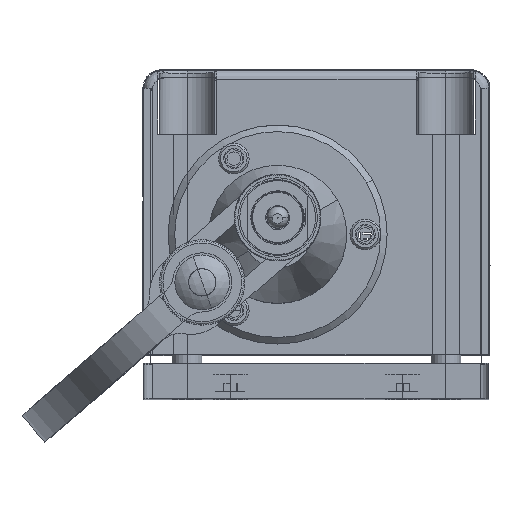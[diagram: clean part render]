
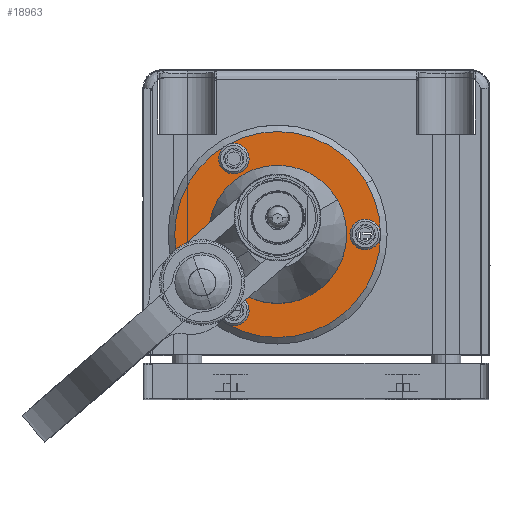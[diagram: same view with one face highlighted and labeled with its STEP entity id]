
A CAD part, top view. The second image highlights one B-rep face of the part: STEP entity #18963.
In plain terms, the highlighted planar face has unit normal (0, 0, 1).
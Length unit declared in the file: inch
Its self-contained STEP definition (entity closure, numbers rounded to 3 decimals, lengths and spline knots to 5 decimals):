
#4931 = VERTEX_POINT ( 'NONE', #59865 ) ;
#4933 = VERTEX_POINT ( 'NONE', #59871 ) ;
#4939 = VERTEX_POINT ( 'NONE', #59887 ) ;
#4941 = VERTEX_POINT ( 'NONE', #59893 ) ;
#4949 = VERTEX_POINT ( 'NONE', #59915 ) ;
#5369 = VERTEX_POINT ( 'NONE', #69175 ) ;
#5750 = VERTEX_POINT ( 'NONE', #65399 ) ;
#5751 = VERTEX_POINT ( 'NONE', #65401 ) ;
#5753 = VERTEX_POINT ( 'NONE', #65405 ) ;
#5759 = VERTEX_POINT ( 'NONE', #65416 ) ;
#18963 = ADVANCED_FACE ( 'NONE', ( #159936, #159949, #159939, #159945, #159942 ), #145390, .T. ) ;
#22346 = EDGE_CURVE ( 'NONE', #5369, #5750, #123652, .T. ) ;
#22353 = EDGE_CURVE ( 'NONE', #5750, #5369, #123663, .T. ) ;
#22360 = EDGE_CURVE ( 'NONE', #5751, #4933, #123669, .T. ) ;
#22367 = EDGE_CURVE ( 'NONE', #4933, #5751, #123680, .T. ) ;
#22374 = EDGE_CURVE ( 'NONE', #5753, #4931, #123689, .T. ) ;
#22381 = EDGE_CURVE ( 'NONE', #4931, #5753, #123699, .T. ) ;
#22388 = EDGE_CURVE ( 'NONE', #4949, #5759, #123707, .T. ) ;
#22409 = EDGE_CURVE ( 'NONE', #4941, #4939, #123732, .T. ) ;
#22500 = EDGE_CURVE ( 'NONE', #4939, #4941, #123858, .T. ) ;
#22556 = EDGE_CURVE ( 'NONE', #5759, #4949, #123944, .T. ) ;
#59865 = CARTESIAN_POINT ( 'NONE',  ( 0.31719, -0.08112, 1.908 ) ) ;
#59871 = CARTESIAN_POINT ( 'NONE',  ( -0.28281, -0.42753, 1.908 ) ) ;
#59887 = CARTESIAN_POINT ( 'NONE',  ( 0.16717, 0.1169, 1.908 ) ) ;
#59893 = CARTESIAN_POINT ( 'NONE',  ( -0.37929, -0.1986, 1.908 ) ) ;
#59915 = CARTESIAN_POINT ( 'NONE',  ( 0.30097, 0.19415, 1.908 ) ) ;
#65399 = CARTESIAN_POINT ( 'NONE',  ( -0.28281, 0.26529, 1.908 ) ) ;
#65401 = CARTESIAN_POINT ( 'NONE',  ( -0.32931, -0.34699, 1.908 ) ) ;
#65405 = CARTESIAN_POINT ( 'NONE',  ( 0.27069, -0.00058, 1.908 ) ) ;
#65416 = CARTESIAN_POINT ( 'NONE',  ( -0.51309, -0.27585, 1.908 ) ) ;
#67733 = EDGE_LOOP ( 'NONE', ( #134919, #134921 ) ) ;
#67790 = EDGE_LOOP ( 'NONE', ( #134935, #134937 ) ) ;
#67864 = EDGE_LOOP ( 'NONE', ( #134931, #134933 ) ) ;
#67894 = EDGE_LOOP ( 'NONE', ( #134923, #134925 ) ) ;
#67899 = EDGE_LOOP ( 'NONE', ( #134927, #134929 ) ) ;
#68668 = CARTESIAN_POINT ( 'NONE',  ( 0.32695, 0.20915, 1.908 ) ) ;
#68684 = DIRECTION ( 'NONE',  ( 0., 0., 1. ) ) ;
#68686 = DIRECTION ( 'NONE',  ( -0.866, -0.5, 0. ) ) ;
#69175 = CARTESIAN_POINT ( 'NONE',  ( -0.32931, 0.34583, 1.908 ) ) ;
#123652 = CIRCLE ( 'NONE', #137773, 0.0465 ) ;
#123663 = CIRCLE ( 'NONE', #137780, 0.0465 ) ;
#123669 = CIRCLE ( 'NONE', #137783, 0.0465 ) ;
#123680 = CIRCLE ( 'NONE', #137788, 0.0465 ) ;
#123689 = CIRCLE ( 'NONE', #137793, 0.0465 ) ;
#123699 = CIRCLE ( 'NONE', #137801, 0.0465 ) ;
#123707 = CIRCLE ( 'NONE', #137809, 0.47 ) ;
#123732 = CIRCLE ( 'NONE', #137825, 0.3155 ) ;
#123858 = CIRCLE ( 'NONE', #137885, 0.3155 ) ;
#123944 = CIRCLE ( 'NONE', #137914, 0.47 ) ;
#128268 = CARTESIAN_POINT ( 'NONE',  ( -0.30606, 0.30556, 1.908 ) ) ;
#128269 = DIRECTION ( 'NONE',  ( 0., 0., 1. ) ) ;
#128271 = DIRECTION ( 'NONE',  ( 0.5, -0.866, 0. ) ) ;
#128284 = CARTESIAN_POINT ( 'NONE',  ( -0.30606, 0.30556, 1.908 ) ) ;
#128285 = DIRECTION ( 'NONE',  ( 0., 0., 1. ) ) ;
#128286 = DIRECTION ( 'NONE',  ( 0.5, -0.866, 0. ) ) ;
#128299 = CARTESIAN_POINT ( 'NONE',  ( -0.30606, -0.38726, 1.908 ) ) ;
#128300 = DIRECTION ( 'NONE',  ( 0., 0., 1. ) ) ;
#128302 = DIRECTION ( 'NONE',  ( 0.5, -0.866, 0. ) ) ;
#128313 = CARTESIAN_POINT ( 'NONE',  ( -0.30606, -0.38726, 1.908 ) ) ;
#128314 = DIRECTION ( 'NONE',  ( 0., 0., 1. ) ) ;
#128316 = DIRECTION ( 'NONE',  ( 0.5, -0.866, 0. ) ) ;
#128330 = CARTESIAN_POINT ( 'NONE',  ( 0.29394, -0.04085, 1.908 ) ) ;
#128332 = DIRECTION ( 'NONE',  ( 0., 0., 1. ) ) ;
#128334 = DIRECTION ( 'NONE',  ( 0.5, -0.866, 0. ) ) ;
#128346 = CARTESIAN_POINT ( 'NONE',  ( 0.29394, -0.04085, 1.908 ) ) ;
#128348 = DIRECTION ( 'NONE',  ( 0., 0., 1. ) ) ;
#128349 = DIRECTION ( 'NONE',  ( 0.5, -0.866, 0. ) ) ;
#128360 = CARTESIAN_POINT ( 'NONE',  ( -0.10606, -0.04085, 1.908 ) ) ;
#128362 = DIRECTION ( 'NONE',  ( 0., 0., 1. ) ) ;
#128364 = DIRECTION ( 'NONE',  ( -0.866, -0.5, 0. ) ) ;
#128412 = CARTESIAN_POINT ( 'NONE',  ( -0.10606, -0.04085, 1.908 ) ) ;
#128414 = DIRECTION ( 'NONE',  ( 0., 0., -1. ) ) ;
#128415 = DIRECTION ( 'NONE',  ( 0.866, 0.5, 0. ) ) ;
#128605 = CARTESIAN_POINT ( 'NONE',  ( -0.10606, -0.04085, 1.908 ) ) ;
#128606 = DIRECTION ( 'NONE',  ( 0., 0., -1. ) ) ;
#128607 = DIRECTION ( 'NONE',  ( 0.866, 0.5, 0. ) ) ;
#128716 = CARTESIAN_POINT ( 'NONE',  ( -0.10606, -0.04085, 1.908 ) ) ;
#128718 = DIRECTION ( 'NONE',  ( 0., 0., 1. ) ) ;
#128720 = DIRECTION ( 'NONE',  ( -0.866, -0.5, 0. ) ) ;
#134919 = ORIENTED_EDGE ( 'NONE', *, *, #22381, .F. ) ;
#134921 = ORIENTED_EDGE ( 'NONE', *, *, #22374, .F. ) ;
#134923 = ORIENTED_EDGE ( 'NONE', *, *, #22367, .F. ) ;
#134925 = ORIENTED_EDGE ( 'NONE', *, *, #22360, .F. ) ;
#134927 = ORIENTED_EDGE ( 'NONE', *, *, #22353, .F. ) ;
#134929 = ORIENTED_EDGE ( 'NONE', *, *, #22346, .F. ) ;
#134931 = ORIENTED_EDGE ( 'NONE', *, *, #22388, .T. ) ;
#134933 = ORIENTED_EDGE ( 'NONE', *, *, #22556, .T. ) ;
#134935 = ORIENTED_EDGE ( 'NONE', *, *, #22500, .T. ) ;
#134937 = ORIENTED_EDGE ( 'NONE', *, *, #22409, .T. ) ;
#135994 = AXIS2_PLACEMENT_3D ( 'NONE', #68668, #68684, #68686 ) ;
#137773 = AXIS2_PLACEMENT_3D ( 'NONE', #128268, #128269, #128271 ) ;
#137780 = AXIS2_PLACEMENT_3D ( 'NONE', #128284, #128285, #128286 ) ;
#137783 = AXIS2_PLACEMENT_3D ( 'NONE', #128299, #128300, #128302 ) ;
#137788 = AXIS2_PLACEMENT_3D ( 'NONE', #128313, #128314, #128316 ) ;
#137793 = AXIS2_PLACEMENT_3D ( 'NONE', #128330, #128332, #128334 ) ;
#137801 = AXIS2_PLACEMENT_3D ( 'NONE', #128346, #128348, #128349 ) ;
#137809 = AXIS2_PLACEMENT_3D ( 'NONE', #128360, #128362, #128364 ) ;
#137825 = AXIS2_PLACEMENT_3D ( 'NONE', #128412, #128414, #128415 ) ;
#137885 = AXIS2_PLACEMENT_3D ( 'NONE', #128605, #128606, #128607 ) ;
#137914 = AXIS2_PLACEMENT_3D ( 'NONE', #128716, #128718, #128720 ) ;
#145390 = PLANE ( 'NONE',  #135994 ) ;
#159936 = FACE_BOUND ( 'NONE', #67733, .T. ) ;
#159939 = FACE_BOUND ( 'NONE', #67899, .T. ) ;
#159942 = FACE_BOUND ( 'NONE', #67790, .T. ) ;
#159945 = FACE_OUTER_BOUND ( 'NONE', #67864, .T. ) ;
#159949 = FACE_BOUND ( 'NONE', #67894, .T. ) ;
